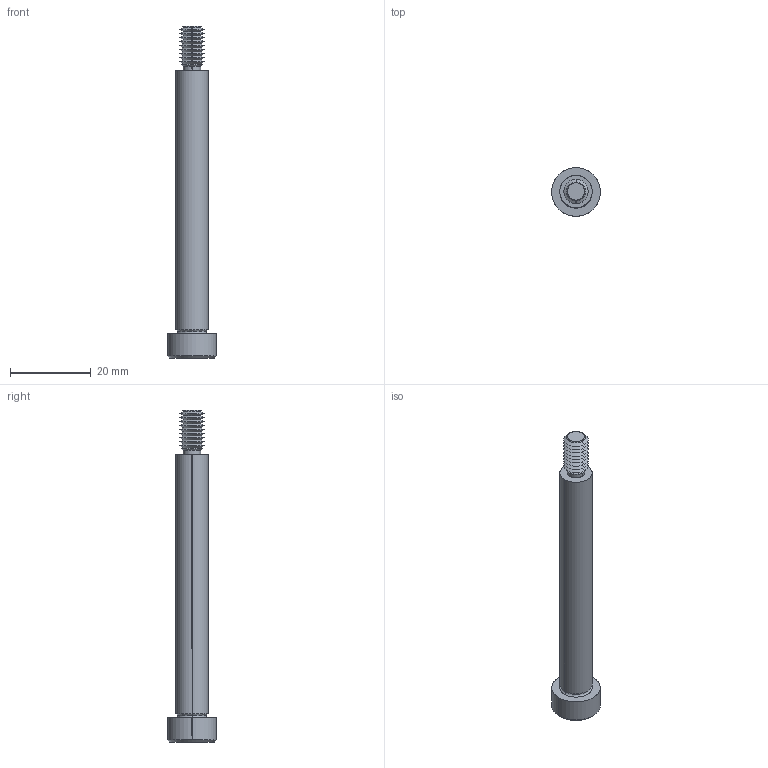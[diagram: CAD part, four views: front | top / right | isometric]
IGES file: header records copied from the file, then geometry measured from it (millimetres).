
Start section: SolidWorks IGES file using analytic representation for surfaces
Global section: file name: C:\Users\IanO\Documents\Temp Folder\GENERAL\SCREW REVISION\P0130_v2\P0130.T5_v2_20220106_IGES\P0130.080-065-T5.igs; native system: SolidWorks 2019; preprocessor: SolidWorks 2019; author: IanO; date: 220106.223755; units: millimetre
Bounding box: 12 x 12 x 82 mm (x, y, z)
Surface area: 2469.9 mm2 (no closed solid volume)
Topology: 0 solids, 0 shells, 80 faces, 580 edges, 578 vertices
Faces by surface type: revolution 60, bspline 20
